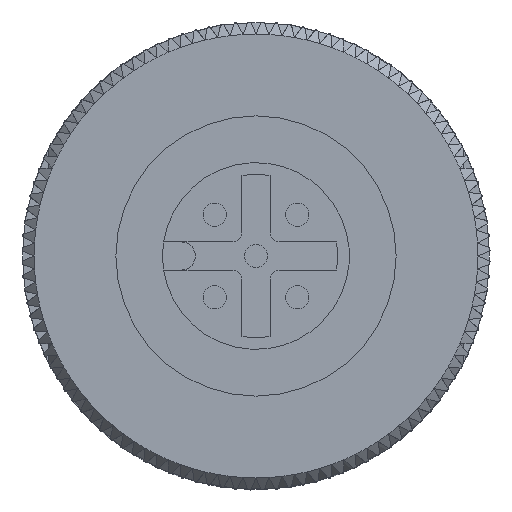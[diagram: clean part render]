
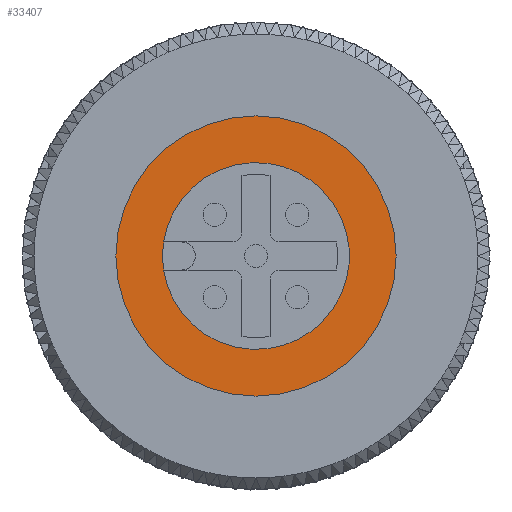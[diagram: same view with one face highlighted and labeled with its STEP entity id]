
A CAD part, front view. The second image highlights one B-rep face of the part: STEP entity #33407.
In plain terms, the highlighted planar face has unit normal (0, -1, 0).
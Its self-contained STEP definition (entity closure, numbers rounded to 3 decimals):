
#32160=CARTESIAN_POINT('',(-3.955,-23.5,-0.6));
#32161=VERTEX_POINT('',#32160);
#32162=CARTESIAN_POINT('',(-3.955,-23.5,0.6));
#32163=VERTEX_POINT('',#32162);
#32164=CARTESIAN_POINT('',(0.0,-23.5,0.0));
#32165=DIRECTION('',(0.0,1.0,0.0));
#32166=DIRECTION('',(0.0,0.0,1.0));
#32167=AXIS2_PLACEMENT_3D('',#32164,#32165,#32166);
#32168=CIRCLE('',#32167,4.);
#32169=EDGE_CURVE('',#32161,#32163,#32168,.T.);
#33375=CARTESIAN_POINT('',(0.0,-23.5,0.0));
#33376=DIRECTION('',(0.0,1.0,0.0));
#33377=DIRECTION('',(0.0,0.0,1.0));
#33378=AXIS2_PLACEMENT_3D('',#33375,#33376,#33377);
#33379=CIRCLE('',#33378,4.);
#33380=EDGE_CURVE('',#32163,#32161,#33379,.T.);
#33387=CARTESIAN_POINT('',(0.0,-23.5,5.0));
#33388=DIRECTION('',(0.0,-1.0,0.0));
#33389=DIRECTION('',(0.0,0.0,-1.0));
#33390=AXIS2_PLACEMENT_3D('',#33387,#33388,#33389);
#33391=PLANE('',#33390);
#33392=CARTESIAN_POINT('',(0.0,-23.5,6.));
#33393=VERTEX_POINT('',#33392);
#33394=CARTESIAN_POINT('',(0.0,-23.5,0.0));
#33395=DIRECTION('',(0.0,1.0,0.0));
#33396=DIRECTION('',(0.0,0.0,1.0));
#33397=AXIS2_PLACEMENT_3D('',#33394,#33395,#33396);
#33398=CIRCLE('',#33397,6.);
#33399=EDGE_CURVE('',#33393,#33393,#33398,.T.);
#33400=ORIENTED_EDGE('',*,*,#33399,.F.);
#33401=EDGE_LOOP('',(#33400));
#33402=FACE_OUTER_BOUND('',#33401,.T.);
#33403=ORIENTED_EDGE('',*,*,#33380,.T.);
#33404=ORIENTED_EDGE('',*,*,#32169,.T.);
#33405=EDGE_LOOP('',(#33403,#33404));
#33406=FACE_BOUND('',#33405,.T.);
#33407=ADVANCED_FACE('',(#33402,#33406),#33391,.T.);
